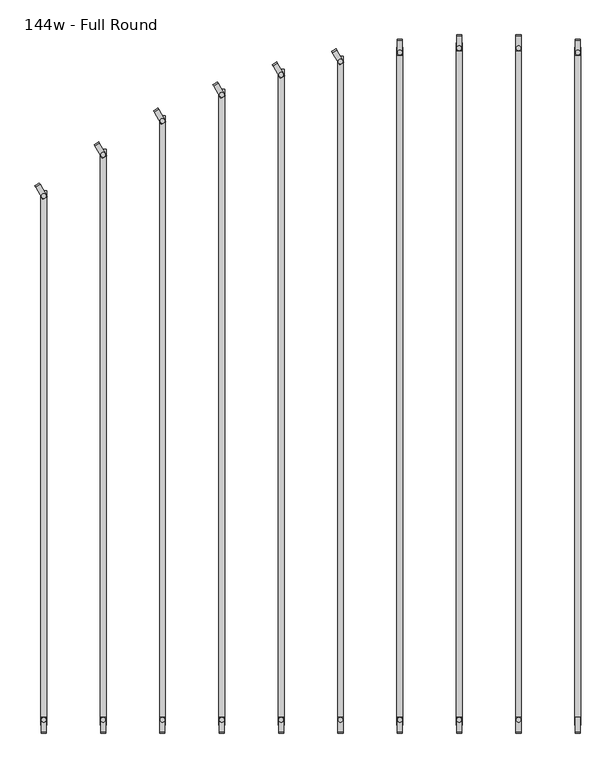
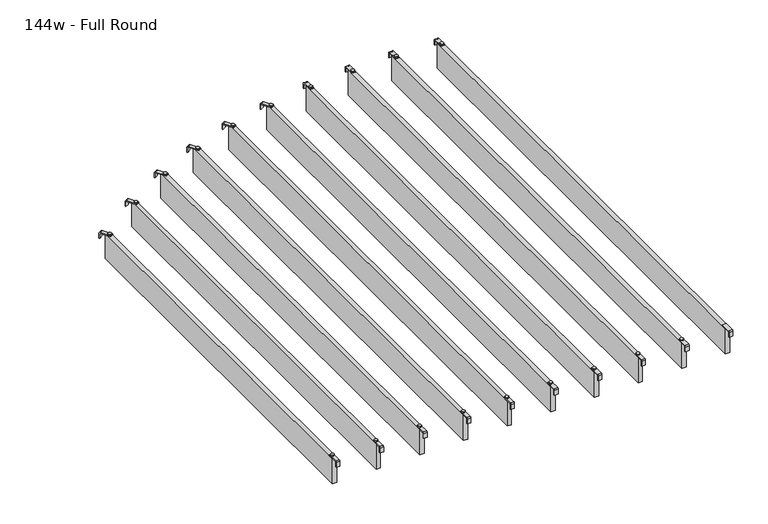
"""IFC4 building model written with IfcOpenShell, lengths in millimetres: furniture geometry, Haworth_Pergola_Ceiling_Slat_Radial : 144w - Full Round."""

from ifc_helpers import new_model, si_unit, point, frame, frame_2d, origin, place, context, project, spatial, polyline, circle_curve, trimmed, segment, composite_curve, outline, extrude, source, transform, mapped, element, save


def furniture_144w_full_round_390d80ab(model_context):
    return source(origin(), model_context, "Body", "SweptSolid", [
        extrude(outline(composite_curve([segment(trimmed(circle_curve(frame_2d((266.7, -505.3424)), 5.9838099), [point((266.7, -511.3262099))], [point((266.7, -499.3585901))], False, "CARTESIAN"), True, "CONTINUOUS"), segment(trimmed(circle_curve(frame_2d((266.7, -505.3424)), 5.9838099), [point((266.7, -499.3585901))], [point((266.7, -511.3262099))], False, "CARTESIAN"), True, "CONTINUOUS")], self_intersect=False)), frame((0.0, 0.0, 2440.9329992), z_axis=(0.0, 0.0, 1.0), x_axis=(1.0, 0.0, 0.0)), (0.0, 0.0, 1.0), 3.4400008),
        extrude(outline(composite_curve([segment(polyline([(-2253.0946, 2419.2231711), (-2253.0946, 2437.2499992)]), True, "CONTINUOUS"), segment(trimmed(circle_curve(frame_2d((-2249.4116, 2437.2499992)), 3.683), [point((-2253.0946, 2437.2499992))], [point((-2249.4116, 2440.9329992))], False, "CARTESIAN"), True, "CONTINUOUS"), segment(polyline([(-2249.4116, 2440.9329992), (-2212.4346, 2440.9329992), (-2212.4346, 2438.2729997), (-2249.4251568, 2438.2729997)]), True, "CONTINUOUS"), segment(trimmed(circle_curve(frame_2d((-2249.4251568, 2437.2635571)), 1.0094425), [point((-2249.4251568, 2438.2729997))], [point((-2250.4345993, 2437.2635571))], True, "CARTESIAN"), True, "CONTINUOUS"), segment(polyline([(-2250.4345993, 2437.2635571), (-2250.4345993, 2419.2231711), (-2253.0946, 2419.2231711)]), True, "CONTINUOUS")], self_intersect=False)), frame((260.2069997, 0.0, 0.0), z_axis=(1.0, 0.0, 0.0), x_axis=(0.0, 1.0, 0.0)), (0.0, 0.0, 1.0), 13.0),
        extrude(outline(composite_curve([segment(polyline([(-471.1824, 2419.2231711), (-473.8424007, 2419.2231711), (-473.8424007, 2437.2635571)]), True, "CONTINUOUS"), segment(trimmed(circle_curve(frame_2d((-474.8518432, 2437.2635571)), 1.0094425), [point((-473.8424007, 2437.2635571))], [point((-474.8518432, 2438.2729997))], True, "CARTESIAN"), True, "CONTINUOUS"), segment(polyline([(-474.8518432, 2438.2729997), (-511.8424, 2438.2729997), (-511.8424, 2440.9329992), (-474.8654, 2440.9329992)]), True, "CONTINUOUS"), segment(trimmed(circle_curve(frame_2d((-474.8654, 2437.2499992)), 3.683), [point((-474.8654, 2440.9329992))], [point((-471.1824, 2437.2499992))], False, "CARTESIAN"), True, "CONTINUOUS"), segment(polyline([(-471.1824, 2437.2499992), (-471.1824, 2419.2231711)]), True, "CONTINUOUS")], self_intersect=False)), frame((260.2069997, 0.0, 0.0), z_axis=(1.0, 0.0, 0.0), x_axis=(0.0, 1.0, 0.0)), (0.0, 0.0, 1.0), 13.0),
        extrude(outline(polyline([(259.207, -491.6424), (274.193, -491.6424), (274.193, -2232.6346), (259.207, -2232.6346), (259.207, -491.6424)])), frame((0.0, 0.0, 2346.198), z_axis=(0.0, 0.0, 1.0), x_axis=(1.0, 0.0, 0.0)), (0.0, 0.0, 1.0), 92.202),
        extrude(outline(composite_curve([segment(trimmed(circle_curve(frame_2d((114.3, -2218.9346)), 5.9838099), [point((114.3, -2212.9507901))], [point((114.3, -2224.9184099))], False, "CARTESIAN"), True, "CONTINUOUS"), segment(trimmed(circle_curve(frame_2d((114.3, -2218.9346)), 5.9838099), [point((114.3, -2224.9184099))], [point((114.3, -2212.9507901))], False, "CARTESIAN"), True, "CONTINUOUS")], self_intersect=False)), frame((0.0, 0.0, 2440.9329992), z_axis=(0.0, 0.0, 1.0), x_axis=(1.0, 0.0, 0.0)), (0.0, 0.0, 1.0), 3.4400008),
        extrude(outline(composite_curve([segment(trimmed(circle_curve(frame_2d((114.3, -494.3442)), 5.9838099), [point((114.3, -500.3280099))], [point((114.3, -488.3603901))], False, "CARTESIAN"), True, "CONTINUOUS"), segment(trimmed(circle_curve(frame_2d((114.3, -494.3442)), 5.9838099), [point((114.3, -488.3603901))], [point((114.3, -500.3280099))], False, "CARTESIAN"), True, "CONTINUOUS")], self_intersect=False)), frame((0.0, 0.0, 2440.9329992), z_axis=(0.0, 0.0, 1.0), x_axis=(1.0, 0.0, 0.0)), (0.0, 0.0, 1.0), 3.4400008),
        extrude(outline(composite_curve([segment(polyline([(-2253.0946, 2419.2231711), (-2253.0946, 2437.2499992)]), True, "CONTINUOUS"), segment(trimmed(circle_curve(frame_2d((-2249.4116, 2437.2499992)), 3.683), [point((-2253.0946, 2437.2499992))], [point((-2249.4116, 2440.9329992))], False, "CARTESIAN"), True, "CONTINUOUS"), segment(polyline([(-2249.4116, 2440.9329992), (-2212.4346, 2440.9329992), (-2212.4346, 2438.2729997), (-2249.4251568, 2438.2729997)]), True, "CONTINUOUS"), segment(trimmed(circle_curve(frame_2d((-2249.4251568, 2437.2635571)), 1.0094425), [point((-2249.4251568, 2438.2729997))], [point((-2250.4345993, 2437.2635571))], True, "CARTESIAN"), True, "CONTINUOUS"), segment(polyline([(-2250.4345993, 2437.2635571), (-2250.4345993, 2419.2231711), (-2253.0946, 2419.2231711)]), True, "CONTINUOUS")], self_intersect=False)), frame((107.8069997, 0.0, 0.0), z_axis=(1.0, 0.0, 0.0), x_axis=(0.0, 1.0, 0.0)), (0.0, 0.0, 1.0), 13.0),
        extrude(outline(composite_curve([segment(polyline([(-460.1842, 2419.2231711), (-462.8442007, 2419.2231711), (-462.8442007, 2437.2635571)]), True, "CONTINUOUS"), segment(trimmed(circle_curve(frame_2d((-463.8536432, 2437.2635571)), 1.0094425), [point((-462.8442007, 2437.2635571))], [point((-463.8536432, 2438.2729997))], True, "CARTESIAN"), True, "CONTINUOUS"), segment(polyline([(-463.8536432, 2438.2729997), (-500.8442, 2438.2729997), (-500.8442, 2440.9329992), (-463.8672, 2440.9329992)]), True, "CONTINUOUS"), segment(trimmed(circle_curve(frame_2d((-463.8672, 2437.2499992)), 3.683), [point((-463.8672, 2440.9329992))], [point((-460.1842, 2437.2499992))], False, "CARTESIAN"), True, "CONTINUOUS"), segment(polyline([(-460.1842, 2437.2499992), (-460.1842, 2419.2231711)]), True, "CONTINUOUS")], self_intersect=False)), frame((107.8069997, 0.0, 0.0), z_axis=(1.0, 0.0, 0.0), x_axis=(0.0, 1.0, 0.0)), (0.0, 0.0, 1.0), 13.0),
        extrude(outline(polyline([(106.807, -480.6442), (121.793, -480.6442), (121.793, -2232.6346), (106.807, -2232.6346), (106.807, -480.6442)])), frame((0.0, 0.0, 2346.198), z_axis=(0.0, 0.0, 1.0), x_axis=(1.0, 0.0, 0.0)), (0.0, 0.0, 1.0), 92.202),
        extrude(outline(composite_curve([segment(trimmed(circle_curve(frame_2d((-38.1, -2218.9346)), 5.9838099), [point((-38.1, -2212.9507901))], [point((-38.1, -2224.9184099))], False, "CARTESIAN"), True, "CONTINUOUS"), segment(trimmed(circle_curve(frame_2d((-38.1, -2218.9346)), 5.9838099), [point((-38.1, -2224.9184099))], [point((-38.1, -2212.9507901))], False, "CARTESIAN"), True, "CONTINUOUS")], self_intersect=False)), frame((0.0, 0.0, 2440.9329992), z_axis=(0.0, 0.0, 1.0), x_axis=(1.0, 0.0, 0.0)), (0.0, 0.0, 1.0), 3.4400008),
        extrude(outline(composite_curve([segment(trimmed(circle_curve(frame_2d((-38.1, -494.3442)), 5.9838099), [point((-38.1, -500.3280099))], [point((-38.1, -488.3603901))], False, "CARTESIAN"), True, "CONTINUOUS"), segment(trimmed(circle_curve(frame_2d((-38.1, -494.3442)), 5.9838099), [point((-38.1, -488.3603901))], [point((-38.1, -500.3280099))], False, "CARTESIAN"), True, "CONTINUOUS")], self_intersect=False)), frame((0.0, 0.0, 2440.9329992), z_axis=(0.0, 0.0, 1.0), x_axis=(1.0, 0.0, 0.0)), (0.0, 0.0, 1.0), 3.4400008),
        extrude(outline(composite_curve([segment(polyline([(-2253.0946, 2419.2231711), (-2253.0946, 2437.2499992)]), True, "CONTINUOUS"), segment(trimmed(circle_curve(frame_2d((-2249.4116, 2437.2499992)), 3.683), [point((-2253.0946, 2437.2499992))], [point((-2249.4116, 2440.9329992))], False, "CARTESIAN"), True, "CONTINUOUS"), segment(polyline([(-2249.4116, 2440.9329992), (-2212.4346, 2440.9329992), (-2212.4346, 2438.2729997), (-2249.4251568, 2438.2729997)]), True, "CONTINUOUS"), segment(trimmed(circle_curve(frame_2d((-2249.4251568, 2437.2635571)), 1.0094425), [point((-2249.4251568, 2438.2729997))], [point((-2250.4345993, 2437.2635571))], True, "CARTESIAN"), True, "CONTINUOUS"), segment(polyline([(-2250.4345993, 2437.2635571), (-2250.4345993, 2419.2231711), (-2253.0946, 2419.2231711)]), True, "CONTINUOUS")], self_intersect=False)), frame((-44.5930003, 0.0, 0.0), z_axis=(1.0, 0.0, 0.0), x_axis=(0.0, 1.0, 0.0)), (0.0, 0.0, 1.0), 13.0),
        extrude(outline(composite_curve([segment(polyline([(-460.1842, 2419.2231711), (-462.8442007, 2419.2231711), (-462.8442007, 2437.2635571)]), True, "CONTINUOUS"), segment(trimmed(circle_curve(frame_2d((-463.8536432, 2437.2635571)), 1.0094425), [point((-462.8442007, 2437.2635571))], [point((-463.8536432, 2438.2729997))], True, "CARTESIAN"), True, "CONTINUOUS"), segment(polyline([(-463.8536432, 2438.2729997), (-500.8442, 2438.2729997), (-500.8442, 2440.9329992), (-463.8672, 2440.9329992)]), True, "CONTINUOUS"), segment(trimmed(circle_curve(frame_2d((-463.8672, 2437.2499992)), 3.683), [point((-463.8672, 2440.9329992))], [point((-460.1842, 2437.2499992))], False, "CARTESIAN"), True, "CONTINUOUS"), segment(polyline([(-460.1842, 2437.2499992), (-460.1842, 2419.2231711)]), True, "CONTINUOUS")], self_intersect=False)), frame((-44.5930003, 0.0, 0.0), z_axis=(1.0, 0.0, 0.0), x_axis=(0.0, 1.0, 0.0)), (0.0, 0.0, 1.0), 13.0),
        extrude(outline(polyline([(-45.593, -480.6442), (-30.607, -480.6442), (-30.607, -2232.6346), (-45.593, -2232.6346), (-45.593, -480.6442)])), frame((0.0, 0.0, 2346.198), z_axis=(0.0, 0.0, 1.0), x_axis=(1.0, 0.0, 0.0)), (0.0, 0.0, 1.0), 92.202),
        extrude(outline(composite_curve([segment(trimmed(circle_curve(frame_2d((-190.5, -2218.9346)), 5.9838099), [point((-190.5, -2212.9507901))], [point((-190.5, -2224.9184099))], False, "CARTESIAN"), True, "CONTINUOUS"), segment(trimmed(circle_curve(frame_2d((-190.5, -2218.9346)), 5.9838099), [point((-190.5, -2224.9184099))], [point((-190.5, -2212.9507901))], False, "CARTESIAN"), True, "CONTINUOUS")], self_intersect=False)), frame((0.0, 0.0, 2440.9329992), z_axis=(0.0, 0.0, 1.0), x_axis=(1.0, 0.0, 0.0)), (0.0, 0.0, 1.0), 3.4400008),
        extrude(outline(composite_curve([segment(trimmed(circle_curve(frame_2d((-190.5, -505.3424)), 5.9838099), [point((-190.5, -511.3262099))], [point((-190.5, -499.3585901))], False, "CARTESIAN"), True, "CONTINUOUS"), segment(trimmed(circle_curve(frame_2d((-190.5, -505.3424)), 5.9838099), [point((-190.5, -499.3585901))], [point((-190.5, -511.3262099))], False, "CARTESIAN"), True, "CONTINUOUS")], self_intersect=False)), frame((0.0, 0.0, 2440.9329992), z_axis=(0.0, 0.0, 1.0), x_axis=(1.0, 0.0, 0.0)), (0.0, 0.0, 1.0), 3.4400008),
        extrude(outline(composite_curve([segment(polyline([(-2253.0946, 2419.2231711), (-2253.0946, 2437.2499992)]), True, "CONTINUOUS"), segment(trimmed(circle_curve(frame_2d((-2249.4116, 2437.2499992)), 3.683), [point((-2253.0946, 2437.2499992))], [point((-2249.4116, 2440.9329992))], False, "CARTESIAN"), True, "CONTINUOUS"), segment(polyline([(-2249.4116, 2440.9329992), (-2212.4346, 2440.9329992), (-2212.4346, 2438.2729997), (-2249.4251568, 2438.2729997)]), True, "CONTINUOUS"), segment(trimmed(circle_curve(frame_2d((-2249.4251568, 2437.2635571)), 1.0094425), [point((-2249.4251568, 2438.2729997))], [point((-2250.4345993, 2437.2635571))], True, "CARTESIAN"), True, "CONTINUOUS"), segment(polyline([(-2250.4345993, 2437.2635571), (-2250.4345993, 2419.2231711), (-2253.0946, 2419.2231711)]), True, "CONTINUOUS")], self_intersect=False)), frame((-196.9930003, 0.0, 0.0), z_axis=(1.0, 0.0, 0.0), x_axis=(0.0, 1.0, 0.0)), (0.0, 0.0, 1.0), 13.0),
        extrude(outline(composite_curve([segment(polyline([(-471.1824, 2419.2231711), (-473.8424007, 2419.2231711), (-473.8424007, 2437.2635571)]), True, "CONTINUOUS"), segment(trimmed(circle_curve(frame_2d((-474.8518432, 2437.2635571)), 1.0094425), [point((-473.8424007, 2437.2635571))], [point((-474.8518432, 2438.2729997))], True, "CARTESIAN"), True, "CONTINUOUS"), segment(polyline([(-474.8518432, 2438.2729997), (-511.8424, 2438.2729997), (-511.8424, 2440.9329992), (-474.8654, 2440.9329992)]), True, "CONTINUOUS"), segment(trimmed(circle_curve(frame_2d((-474.8654, 2437.2499992)), 3.683), [point((-474.8654, 2440.9329992))], [point((-471.1824, 2437.2499992))], False, "CARTESIAN"), True, "CONTINUOUS"), segment(polyline([(-471.1824, 2437.2499992), (-471.1824, 2419.2231711)]), True, "CONTINUOUS")], self_intersect=False)), frame((-196.9930003, 0.0, 0.0), z_axis=(1.0, 0.0, 0.0), x_axis=(0.0, 1.0, 0.0)), (0.0, 0.0, 1.0), 13.0),
        extrude(outline(polyline([(-197.993, -491.6424), (-183.007, -491.6424), (-183.007, -2232.6346), (-197.993, -2232.6346), (-197.993, -491.6424)])), frame((0.0, 0.0, 2346.198), z_axis=(0.0, 0.0, 1.0), x_axis=(1.0, 0.0, 0.0)), (0.0, 0.0, 1.0), 92.202),
        extrude(outline(composite_curve([segment(trimmed(circle_curve(frame_2d((-1.0160034, 0.0159996)), 1.016), [point((-1.0160034, -1.0000004))], [point((-3.4e-06, 0.0159996))], True, "CARTESIAN"), True, "CONTINUOUS"), segment(polyline([(-3.4e-06, 0.0159996), (-3.4e-06, 36.7785168), (2.5329992, 36.7785168), (2.5329992, 0.022999)]), True, "CONTINUOUS"), segment(trimmed(circle_curve(frame_2d((-1.1500008, 0.022999)), 3.683), [point((2.5329992, 0.022999))], [point((-1.1500008, -3.660001))], False, "CARTESIAN"), True, "CONTINUOUS"), segment(polyline([(-1.1500008, -3.660001), (-19.0498319, -3.660001), (-19.0498319, -1.0000004), (-1.0160034, -1.0000004)]), True, "CONTINUOUS")], self_intersect=False)), frame((-363.7791648, -505.5720262, 2438.4), z_axis=(0.8660254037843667, 0.5000000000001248, 0.0), x_axis=(0.0, 0.0, 1.0)), (0.0, 0.0, 1.0), 13.0000002),
        extrude(outline(composite_curve([segment(trimmed(circle_curve(frame_2d((-342.9, -2218.9346)), 5.9838099), [point((-342.9, -2212.9507901))], [point((-342.9, -2224.9184099))], False, "CARTESIAN"), True, "CONTINUOUS"), segment(trimmed(circle_curve(frame_2d((-342.9, -2218.9346)), 5.9838099), [point((-342.9, -2224.9184099))], [point((-342.9, -2212.9507901))], False, "CARTESIAN"), True, "CONTINUOUS")], self_intersect=False)), frame((0.0, 0.0, 2440.9329992), z_axis=(0.0, 0.0, 1.0), x_axis=(1.0, 0.0, 0.0)), (0.0, 0.0, 1.0), 3.4400008),
        extrude(outline(composite_curve([segment(trimmed(circle_curve(frame_2d((-342.9, -528.7358)), 5.9838099), [point((-342.9, -534.7196099))], [point((-342.9, -522.7519901))], False, "CARTESIAN"), True, "CONTINUOUS"), segment(trimmed(circle_curve(frame_2d((-342.9, -528.7358)), 5.9838099), [point((-342.9, -522.7519901))], [point((-342.9, -534.7196099))], False, "CARTESIAN"), True, "CONTINUOUS")], self_intersect=False)), frame((0.0, 0.0, 2440.9329992), z_axis=(0.0, 0.0, 1.0), x_axis=(1.0, 0.0, 0.0)), (0.0, 0.0, 1.0), 3.4400008),
        extrude(outline(composite_curve([segment(polyline([(-2253.0946, 2419.2231711), (-2253.0946, 2437.2499992)]), True, "CONTINUOUS"), segment(trimmed(circle_curve(frame_2d((-2249.4116, 2437.2499992)), 3.683), [point((-2253.0946, 2437.2499992))], [point((-2249.4116, 2440.9329992))], False, "CARTESIAN"), True, "CONTINUOUS"), segment(polyline([(-2249.4116, 2440.9329992), (-2212.4346, 2440.9329992), (-2212.4346, 2438.2729997), (-2249.4251568, 2438.2729997)]), True, "CONTINUOUS"), segment(trimmed(circle_curve(frame_2d((-2249.4251568, 2437.2635571)), 1.0094425), [point((-2249.4251568, 2438.2729997))], [point((-2250.4345993, 2437.2635571))], True, "CARTESIAN"), True, "CONTINUOUS"), segment(polyline([(-2250.4345993, 2437.2635571), (-2250.4345993, 2419.2231711), (-2253.0946, 2419.2231711)]), True, "CONTINUOUS")], self_intersect=False)), frame((-349.3930003, 0.0, 0.0), z_axis=(1.0, 0.0, 0.0), x_axis=(0.0, 1.0, 0.0)), (0.0, 0.0, 1.0), 13.0),
        extrude(outline(polyline([(-350.393, -515.0358), (-335.407, -515.0358), (-335.407, -2232.6346), (-350.393, -2232.6346), (-350.393, -515.0358)])), frame((0.0, 0.0, 2346.198), z_axis=(0.0, 0.0, 1.0), x_axis=(1.0, 0.0, 0.0)), (0.0, 0.0, 1.0), 92.202),
        extrude(outline(composite_curve([segment(trimmed(circle_curve(frame_2d((-1.0160034, 0.0159996)), 1.016), [point((-1.0160034, -1.0000004))], [point((-3.4e-06, 0.0159996))], True, "CARTESIAN"), True, "CONTINUOUS"), segment(polyline([(-3.4e-06, 0.0159996), (-3.4e-06, 36.7785168), (2.5329992, 36.7785168), (2.5329992, 0.022999)]), True, "CONTINUOUS"), segment(trimmed(circle_curve(frame_2d((-1.1500008, 0.022999)), 3.683), [point((2.5329992, 0.022999))], [point((-1.1500008, -3.660001))], False, "CARTESIAN"), True, "CONTINUOUS"), segment(polyline([(-1.1500008, -3.660001), (-19.0498319, -3.660001), (-19.0498319, -1.0000004), (-1.0160034, -1.0000004)]), True, "CONTINUOUS")], self_intersect=False)), frame((-516.1791648, -539.4048262, 2438.4), z_axis=(0.8660254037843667, 0.5000000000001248, 0.0), x_axis=(0.0, 0.0, 1.0)), (0.0, 0.0, 1.0), 13.0000002),
        extrude(outline(composite_curve([segment(trimmed(circle_curve(frame_2d((-495.3, -2218.9346)), 5.9838099), [point((-495.3, -2212.9507901))], [point((-495.3, -2224.9184099))], False, "CARTESIAN"), True, "CONTINUOUS"), segment(trimmed(circle_curve(frame_2d((-495.3, -2218.9346)), 5.9838099), [point((-495.3, -2224.9184099))], [point((-495.3, -2212.9507901))], False, "CARTESIAN"), True, "CONTINUOUS")], self_intersect=False)), frame((0.0, 0.0, 2440.9329992), z_axis=(0.0, 0.0, 1.0), x_axis=(1.0, 0.0, 0.0)), (0.0, 0.0, 1.0), 3.4400008),
        extrude(outline(composite_curve([segment(trimmed(circle_curve(frame_2d((-495.3, -562.5686)), 5.9838099), [point((-495.3, -568.5524099))], [point((-495.3, -556.5847901))], False, "CARTESIAN"), True, "CONTINUOUS"), segment(trimmed(circle_curve(frame_2d((-495.3, -562.5686)), 5.9838099), [point((-495.3, -556.5847901))], [point((-495.3, -568.5524099))], False, "CARTESIAN"), True, "CONTINUOUS")], self_intersect=False)), frame((0.0, 0.0, 2440.9329992), z_axis=(0.0, 0.0, 1.0), x_axis=(1.0, 0.0, 0.0)), (0.0, 0.0, 1.0), 3.4400008),
        extrude(outline(composite_curve([segment(polyline([(-2253.0946, 2419.2231711), (-2253.0946, 2437.2499992)]), True, "CONTINUOUS"), segment(trimmed(circle_curve(frame_2d((-2249.4116, 2437.2499992)), 3.683), [point((-2253.0946, 2437.2499992))], [point((-2249.4116, 2440.9329992))], False, "CARTESIAN"), True, "CONTINUOUS"), segment(polyline([(-2249.4116, 2440.9329992), (-2212.4346, 2440.9329992), (-2212.4346, 2438.2729997), (-2249.4251568, 2438.2729997)]), True, "CONTINUOUS"), segment(trimmed(circle_curve(frame_2d((-2249.4251568, 2437.2635571)), 1.0094425), [point((-2249.4251568, 2438.2729997))], [point((-2250.4345993, 2437.2635571))], True, "CARTESIAN"), True, "CONTINUOUS"), segment(polyline([(-2250.4345993, 2437.2635571), (-2250.4345993, 2419.2231711), (-2253.0946, 2419.2231711)]), True, "CONTINUOUS")], self_intersect=False)), frame((-501.7930003, 0.0, 0.0), z_axis=(1.0, 0.0, 0.0), x_axis=(0.0, 1.0, 0.0)), (0.0, 0.0, 1.0), 13.0),
        extrude(outline(polyline([(-502.793, -548.8686), (-487.807, -548.8686), (-487.807, -2232.6346), (-502.793, -2232.6346), (-502.793, -548.8686)])), frame((0.0, 0.0, 2346.198), z_axis=(0.0, 0.0, 1.0), x_axis=(1.0, 0.0, 0.0)), (0.0, 0.0, 1.0), 92.202),
        extrude(outline(composite_curve([segment(trimmed(circle_curve(frame_2d((-1.0160034, 0.0159996)), 1.016), [point((-1.0160034, -1.0000004))], [point((-3.4e-06, 0.0159996))], True, "CARTESIAN"), True, "CONTINUOUS"), segment(polyline([(-3.4e-06, 0.0159996), (-3.4e-06, 36.7785168), (2.5329992, 36.7785168), (2.5329992, 0.022999)]), True, "CONTINUOUS"), segment(trimmed(circle_curve(frame_2d((-1.1500008, 0.022999)), 3.683), [point((2.5329992, 0.022999))], [point((-1.1500008, -3.660001))], False, "CARTESIAN"), True, "CONTINUOUS"), segment(polyline([(-1.1500008, -3.660001), (-19.0498319, -3.660001), (-19.0498319, -1.0000004), (-1.0160034, -1.0000004)]), True, "CONTINUOUS")], self_intersect=False)), frame((-668.5791648, -590.7890262, 2438.4), z_axis=(0.8660254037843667, 0.5000000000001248, 0.0), x_axis=(0.0, 0.0, 1.0)), (0.0, 0.0, 1.0), 13.0000002),
        extrude(outline(composite_curve([segment(trimmed(circle_curve(frame_2d((-647.7, -2218.9346)), 5.9838099), [point((-647.7, -2212.9507901))], [point((-647.7, -2224.9184099))], False, "CARTESIAN"), True, "CONTINUOUS"), segment(trimmed(circle_curve(frame_2d((-647.7, -2218.9346)), 5.9838099), [point((-647.7, -2224.9184099))], [point((-647.7, -2212.9507901))], False, "CARTESIAN"), True, "CONTINUOUS")], self_intersect=False)), frame((0.0, 0.0, 2440.9329992), z_axis=(0.0, 0.0, 1.0), x_axis=(1.0, 0.0, 0.0)), (0.0, 0.0, 1.0), 3.4400008),
        extrude(outline(composite_curve([segment(trimmed(circle_curve(frame_2d((-647.7, -613.9528)), 5.9838099), [point((-647.7, -619.9366099))], [point((-647.7, -607.9689901))], False, "CARTESIAN"), True, "CONTINUOUS"), segment(trimmed(circle_curve(frame_2d((-647.7, -613.9528)), 5.9838099), [point((-647.7, -607.9689901))], [point((-647.7, -619.9366099))], False, "CARTESIAN"), True, "CONTINUOUS")], self_intersect=False)), frame((0.0, 0.0, 2440.9329992), z_axis=(0.0, 0.0, 1.0), x_axis=(1.0, 0.0, 0.0)), (0.0, 0.0, 1.0), 3.4400008),
        extrude(outline(composite_curve([segment(polyline([(-2253.0946, 2419.2231711), (-2253.0946, 2437.2499992)]), True, "CONTINUOUS"), segment(trimmed(circle_curve(frame_2d((-2249.4116, 2437.2499992)), 3.683), [point((-2253.0946, 2437.2499992))], [point((-2249.4116, 2440.9329992))], False, "CARTESIAN"), True, "CONTINUOUS"), segment(polyline([(-2249.4116, 2440.9329992), (-2212.4346, 2440.9329992), (-2212.4346, 2438.2729997), (-2249.4251568, 2438.2729997)]), True, "CONTINUOUS"), segment(trimmed(circle_curve(frame_2d((-2249.4251568, 2437.2635571)), 1.0094425), [point((-2249.4251568, 2438.2729997))], [point((-2250.4345993, 2437.2635571))], True, "CARTESIAN"), True, "CONTINUOUS"), segment(polyline([(-2250.4345993, 2437.2635571), (-2250.4345993, 2419.2231711), (-2253.0946, 2419.2231711)]), True, "CONTINUOUS")], self_intersect=False)), frame((-654.1930003, 0.0, 0.0), z_axis=(1.0, 0.0, 0.0), x_axis=(0.0, 1.0, 0.0)), (0.0, 0.0, 1.0), 13.0),
        extrude(outline(polyline([(-655.193, -600.2528), (-640.207, -600.2528), (-640.207, -2232.6346), (-655.193, -2232.6346), (-655.193, -600.2528)])), frame((0.0, 0.0, 2346.198), z_axis=(0.0, 0.0, 1.0), x_axis=(1.0, 0.0, 0.0)), (0.0, 0.0, 1.0), 92.202),
        extrude(outline(composite_curve([segment(trimmed(circle_curve(frame_2d((-1.0160034, 0.0159996)), 1.016), [point((-1.0160034, -1.0000004))], [point((-3.4e-06, 0.0159996))], True, "CARTESIAN"), True, "CONTINUOUS"), segment(polyline([(-3.4e-06, 0.0159996), (-3.4e-06, 36.7785168), (2.5329992, 36.7785168), (2.5329992, 0.022999)]), True, "CONTINUOUS"), segment(trimmed(circle_curve(frame_2d((-1.1500008, 0.022999)), 3.683), [point((2.5329992, 0.022999))], [point((-1.1500008, -3.660001))], False, "CARTESIAN"), True, "CONTINUOUS"), segment(polyline([(-1.1500008, -3.660001), (-19.0498319, -3.660001), (-19.0498319, -1.0000004), (-1.0160034, -1.0000004)]), True, "CONTINUOUS")], self_intersect=False)), frame((-820.9791648, -657.9466262, 2438.4), z_axis=(0.8660254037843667, 0.5000000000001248, 0.0), x_axis=(0.0, 0.0, 1.0)), (0.0, 0.0, 1.0), 13.0000002),
        extrude(outline(composite_curve([segment(trimmed(circle_curve(frame_2d((-800.1, -2218.9346)), 5.9838099), [point((-800.1, -2212.9507901))], [point((-800.1, -2224.9184099))], False, "CARTESIAN"), True, "CONTINUOUS"), segment(trimmed(circle_curve(frame_2d((-800.1, -2218.9346)), 5.9838099), [point((-800.1, -2224.9184099))], [point((-800.1, -2212.9507901))], False, "CARTESIAN"), True, "CONTINUOUS")], self_intersect=False)), frame((0.0, 0.0, 2440.9329992), z_axis=(0.0, 0.0, 1.0), x_axis=(1.0, 0.0, 0.0)), (0.0, 0.0, 1.0), 3.4400008),
        extrude(outline(composite_curve([segment(trimmed(circle_curve(frame_2d((-800.1, -681.1104)), 5.9838099), [point((-800.1, -687.0942099))], [point((-800.1, -675.1265901))], False, "CARTESIAN"), True, "CONTINUOUS"), segment(trimmed(circle_curve(frame_2d((-800.1, -681.1104)), 5.9838099), [point((-800.1, -675.1265901))], [point((-800.1, -687.0942099))], False, "CARTESIAN"), True, "CONTINUOUS")], self_intersect=False)), frame((0.0, 0.0, 2440.9329992), z_axis=(0.0, 0.0, 1.0), x_axis=(1.0, 0.0, 0.0)), (0.0, 0.0, 1.0), 3.4400008),
        extrude(outline(composite_curve([segment(polyline([(-2253.0946, 2419.2231711), (-2253.0946, 2437.2499992)]), True, "CONTINUOUS"), segment(trimmed(circle_curve(frame_2d((-2249.4116, 2437.2499992)), 3.683), [point((-2253.0946, 2437.2499992))], [point((-2249.4116, 2440.9329992))], False, "CARTESIAN"), True, "CONTINUOUS"), segment(polyline([(-2249.4116, 2440.9329992), (-2212.4346, 2440.9329992), (-2212.4346, 2438.2729997), (-2249.4251568, 2438.2729997)]), True, "CONTINUOUS"), segment(trimmed(circle_curve(frame_2d((-2249.4251568, 2437.2635571)), 1.0094425), [point((-2249.4251568, 2438.2729997))], [point((-2250.4345993, 2437.2635571))], True, "CARTESIAN"), True, "CONTINUOUS"), segment(polyline([(-2250.4345993, 2437.2635571), (-2250.4345993, 2419.2231711), (-2253.0946, 2419.2231711)]), True, "CONTINUOUS")], self_intersect=False)), frame((-806.5930003, 0.0, 0.0), z_axis=(1.0, 0.0, 0.0), x_axis=(0.0, 1.0, 0.0)), (0.0, 0.0, 1.0), 13.0),
        extrude(outline(polyline([(-807.593, -667.4104), (-792.607, -667.4104), (-792.607, -2232.6346), (-807.593, -2232.6346), (-807.593, -667.4104)])), frame((0.0, 0.0, 2346.198), z_axis=(0.0, 0.0, 1.0), x_axis=(1.0, 0.0, 0.0)), (0.0, 0.0, 1.0), 92.202),
        extrude(outline(composite_curve([segment(trimmed(circle_curve(frame_2d((-1.0160034, 0.0159996)), 1.016), [point((-1.0160034, -1.0000004))], [point((-3.4e-06, 0.0159996))], True, "CARTESIAN"), True, "CONTINUOUS"), segment(polyline([(-3.4e-06, 0.0159996), (-3.4e-06, 36.7785168), (2.5329992, 36.7785168), (2.5329992, 0.022999)]), True, "CONTINUOUS"), segment(trimmed(circle_curve(frame_2d((-1.1500008, 0.022999)), 3.683), [point((2.5329992, 0.022999))], [point((-1.1500008, -3.660001))], False, "CARTESIAN"), True, "CONTINUOUS"), segment(polyline([(-1.1500008, -3.660001), (-19.0498319, -3.660001), (-19.0498319, -1.0000004), (-1.0160034, -1.0000004)]), True, "CONTINUOUS")], self_intersect=False)), frame((-973.3791648, -744.8400262, 2438.4), z_axis=(0.8660254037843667, 0.5000000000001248, 0.0), x_axis=(0.0, 0.0, 1.0)), (0.0, 0.0, 1.0), 13.0000002),
        extrude(outline(composite_curve([segment(trimmed(circle_curve(frame_2d((-952.5, -2218.9346)), 5.9838099), [point((-952.5, -2212.9507901))], [point((-952.5, -2224.9184099))], False, "CARTESIAN"), True, "CONTINUOUS"), segment(trimmed(circle_curve(frame_2d((-952.5, -2218.9346)), 5.9838099), [point((-952.5, -2224.9184099))], [point((-952.5, -2212.9507901))], False, "CARTESIAN"), True, "CONTINUOUS")], self_intersect=False)), frame((0.0, 0.0, 2440.9329992), z_axis=(0.0, 0.0, 1.0), x_axis=(1.0, 0.0, 0.0)), (0.0, 0.0, 1.0), 3.4400008),
        extrude(outline(composite_curve([segment(trimmed(circle_curve(frame_2d((-952.5, -768.0038)), 5.9838099), [point((-952.5, -773.9876099))], [point((-952.5, -762.0199901))], False, "CARTESIAN"), True, "CONTINUOUS"), segment(trimmed(circle_curve(frame_2d((-952.5, -768.0038)), 5.9838099), [point((-952.5, -762.0199901))], [point((-952.5, -773.9876099))], False, "CARTESIAN"), True, "CONTINUOUS")], self_intersect=False)), frame((0.0, 0.0, 2440.9329992), z_axis=(0.0, 0.0, 1.0), x_axis=(1.0, 0.0, 0.0)), (0.0, 0.0, 1.0), 3.4400008),
        extrude(outline(composite_curve([segment(polyline([(-2253.0946, 2419.2231711), (-2253.0946, 2437.2499992)]), True, "CONTINUOUS"), segment(trimmed(circle_curve(frame_2d((-2249.4116, 2437.2499992)), 3.683), [point((-2253.0946, 2437.2499992))], [point((-2249.4116, 2440.9329992))], False, "CARTESIAN"), True, "CONTINUOUS"), segment(polyline([(-2249.4116, 2440.9329992), (-2212.4346, 2440.9329992), (-2212.4346, 2438.2729997), (-2249.4251568, 2438.2729997)]), True, "CONTINUOUS"), segment(trimmed(circle_curve(frame_2d((-2249.4251568, 2437.2635571)), 1.0094425), [point((-2249.4251568, 2438.2729997))], [point((-2250.4345993, 2437.2635571))], True, "CARTESIAN"), True, "CONTINUOUS"), segment(polyline([(-2250.4345993, 2437.2635571), (-2250.4345993, 2419.2231711), (-2253.0946, 2419.2231711)]), True, "CONTINUOUS")], self_intersect=False)), frame((-958.9930003, 0.0, 0.0), z_axis=(1.0, 0.0, 0.0), x_axis=(0.0, 1.0, 0.0)), (0.0, 0.0, 1.0), 13.0),
        extrude(outline(polyline([(-959.993, -754.3038), (-945.007, -754.3038), (-945.007, -2232.6346), (-959.993, -2232.6346), (-959.993, -754.3038)])), frame((0.0, 0.0, 2346.198), z_axis=(0.0, 0.0, 1.0), x_axis=(1.0, 0.0, 0.0)), (0.0, 0.0, 1.0), 92.202),
        extrude(outline(composite_curve([segment(trimmed(circle_curve(frame_2d((-1.0160034, 0.0159996)), 1.016), [point((-1.0160034, -1.0000004))], [point((-3.4e-06, 0.0159996))], True, "CARTESIAN"), True, "CONTINUOUS"), segment(polyline([(-3.4e-06, 0.0159996), (-3.4e-06, 36.7785168), (2.5329992, 36.7785168), (2.5329992, 0.022999)]), True, "CONTINUOUS"), segment(trimmed(circle_curve(frame_2d((-1.1500008, 0.022999)), 3.683), [point((2.5329992, 0.022999))], [point((-1.1500008, -3.660001))], False, "CARTESIAN"), True, "CONTINUOUS"), segment(polyline([(-1.1500008, -3.660001), (-19.0498319, -3.660001), (-19.0498319, -1.0000004), (-1.0160034, -1.0000004)]), True, "CONTINUOUS")], self_intersect=False)), frame((-1125.7791648, -850.6564262, 2438.4), z_axis=(0.8660254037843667, 0.5000000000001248, 0.0), x_axis=(0.0, 0.0, 1.0)), (0.0, 0.0, 1.0), 13.0000002),
        extrude(outline(composite_curve([segment(trimmed(circle_curve(frame_2d((-1104.9, -2218.9346)), 5.9838099), [point((-1104.9, -2212.9507901))], [point((-1104.9, -2224.9184099))], False, "CARTESIAN"), True, "CONTINUOUS"), segment(trimmed(circle_curve(frame_2d((-1104.9, -2218.9346)), 5.9838099), [point((-1104.9, -2224.9184099))], [point((-1104.9, -2212.9507901))], False, "CARTESIAN"), True, "CONTINUOUS")], self_intersect=False)), frame((0.0, 0.0, 2440.9329992), z_axis=(0.0, 0.0, 1.0), x_axis=(1.0, 0.0, 0.0)), (0.0, 0.0, 1.0), 3.4400008),
        extrude(outline(composite_curve([segment(trimmed(circle_curve(frame_2d((-1104.9, -873.8202)), 5.9838099), [point((-1104.9, -879.8040099))], [point((-1104.9, -867.8363901))], False, "CARTESIAN"), True, "CONTINUOUS"), segment(trimmed(circle_curve(frame_2d((-1104.9, -873.8202)), 5.9838099), [point((-1104.9, -867.8363901))], [point((-1104.9, -879.8040099))], False, "CARTESIAN"), True, "CONTINUOUS")], self_intersect=False)), frame((0.0, 0.0, 2440.9329992), z_axis=(0.0, 0.0, 1.0), x_axis=(1.0, 0.0, 0.0)), (0.0, 0.0, 1.0), 3.4400008),
        extrude(outline(composite_curve([segment(polyline([(-2253.0946, 2419.2231711), (-2253.0946, 2437.2499992)]), True, "CONTINUOUS"), segment(trimmed(circle_curve(frame_2d((-2249.4116, 2437.2499992)), 3.683), [point((-2253.0946, 2437.2499992))], [point((-2249.4116, 2440.9329992))], False, "CARTESIAN"), True, "CONTINUOUS"), segment(polyline([(-2249.4116, 2440.9329992), (-2212.4346, 2440.9329992), (-2212.4346, 2438.2729997), (-2249.4251568, 2438.2729997)]), True, "CONTINUOUS"), segment(trimmed(circle_curve(frame_2d((-2249.4251568, 2437.2635571)), 1.0094425), [point((-2249.4251568, 2438.2729997))], [point((-2250.4345993, 2437.2635571))], True, "CARTESIAN"), True, "CONTINUOUS"), segment(polyline([(-2250.4345993, 2437.2635571), (-2250.4345993, 2419.2231711), (-2253.0946, 2419.2231711)]), True, "CONTINUOUS")], self_intersect=False)), frame((-1111.3930003, 0.0, 0.0), z_axis=(1.0, 0.0, 0.0), x_axis=(0.0, 1.0, 0.0)), (0.0, 0.0, 1.0), 13.0),
        extrude(outline(polyline([(-1112.393, -860.1202), (-1097.407, -860.1202), (-1097.407, -2232.6346), (-1112.393, -2232.6346), (-1112.393, -860.1202)])), frame((0.0, 0.0, 2346.198), z_axis=(0.0, 0.0, 1.0), x_axis=(1.0, 0.0, 0.0)), (0.0, 0.0, 1.0), 92.202),
    ])


if __name__ == "__main__":
    model = new_model("IFC4")
    model_context = context("Model", 3, world=origin())
    ifc_project = project(units=[si_unit("LENGTHUNIT", "METRE", prefix="MILLI")], contexts=[model_context])
    site = spatial("IfcSite", under=ifc_project)
    building = spatial("IfcBuilding", under=site)
    placement = place(None, origin())
    furniture_144w_full_round_shape = furniture_144w_full_round_390d80ab(model_context)
    element("IfcFurniture", 1, ObjectType="Haworth_Pergola_Ceiling_Slat_Radial : 144w - Full Round", at=placement, inside=building, context=model_context, shape_type="MappedRepresentation", body=[
        mapped(furniture_144w_full_round_shape, transform((0.0, 0.0, 0.0), x_axis=(1.0, 0.0, 0.0), y_axis=(0.0, 1.0, 0.0), z_axis=(0.0, 0.0, 1.0))),
    ])
    save(model, "model.ifc")
